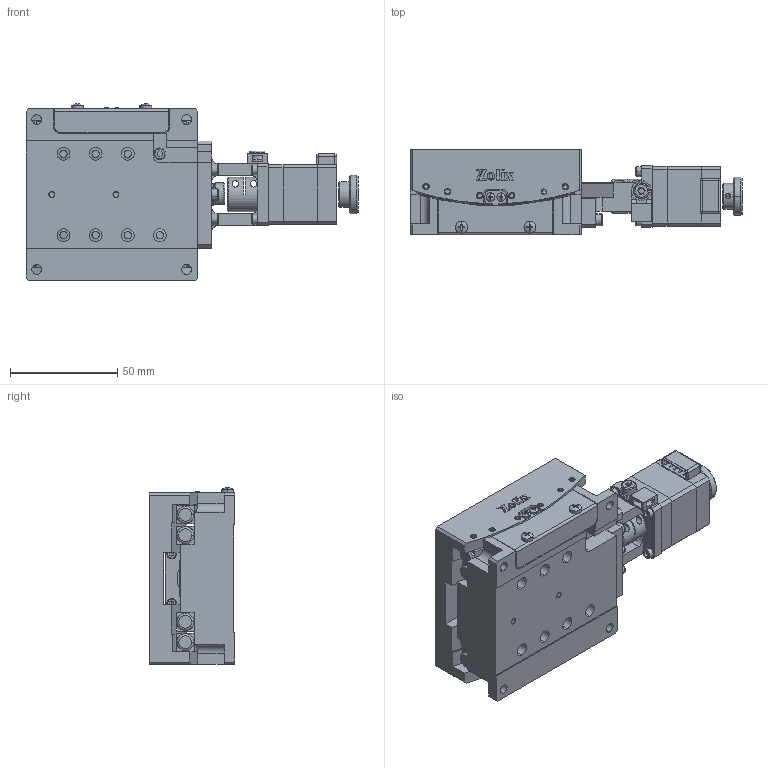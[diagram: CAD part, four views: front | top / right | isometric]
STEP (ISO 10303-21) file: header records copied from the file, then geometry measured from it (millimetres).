
FILE_DESCRIPTION (( 'STEP AP203' ), '1' );
FILE_NAME ('GON100-80.step', '2019-05-06T07:48:30', ( '' ), ( '' ), 'SwSTEP 2.0', 'SolidWorks 2017', '' );
FILE_SCHEMA (( 'CONFIG_CONTROL_DESIGN' ));
Length unit declared in the file: millimetre
Products named in the file (1): GON100-80
Bounding box: 155 x 40 x 82.37 mm (x, y, z)
Surface area: 68206.8 mm2 (no closed solid volume)
Topology: 0 solids, 87 shells, 934 faces, 3329 edges, 2387 vertices
Faces by surface type: plane 550, cylinder 245, torus 66, cone 57, sphere 12, bspline 4
Entity records: 37407 total; most frequent: CARTESIAN_POINT 8732, DIRECTION 6150, ORIENTED_EDGE 5166, EDGE_CURVE 3297, VERTEX_POINT 2387, AXIS2_PLACEMENT_3D 2073, VECTOR 2004, LINE 2004
